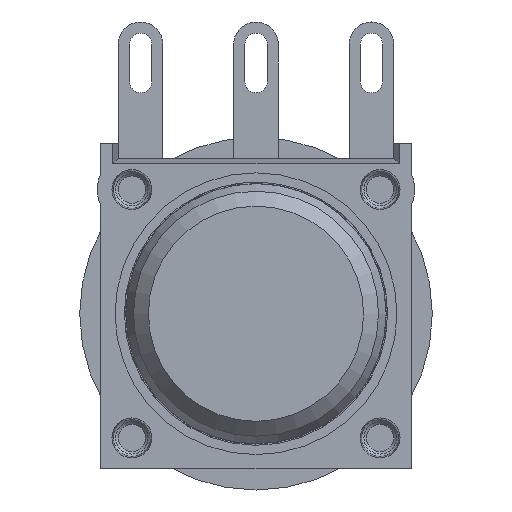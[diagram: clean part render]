
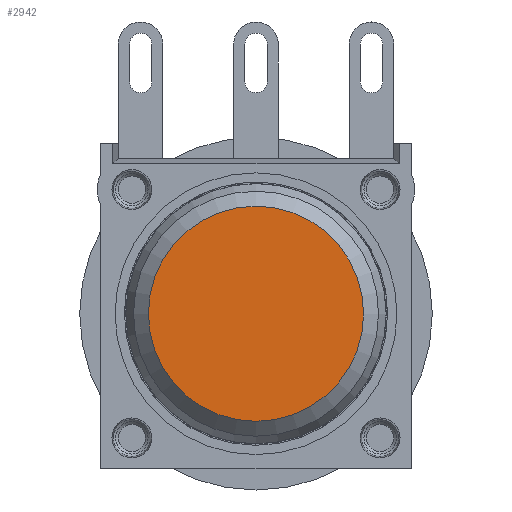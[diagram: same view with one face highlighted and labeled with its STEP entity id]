
A CAD part, left-side view. The second image highlights one B-rep face of the part: STEP entity #2942.
In plain terms, the highlighted planar face has unit normal (-1, 0, 0) as drawn and (0, 0, 1) by its records, which use the part's own axes.
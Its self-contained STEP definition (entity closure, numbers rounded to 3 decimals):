
#2942 = ADVANCED_FACE( '', ( #5911 ), #5912, .T. );
#5911 = FACE_OUTER_BOUND( '', #10654, .T. );
#5912 = PLANE( '', #10655 );
#10654 = EDGE_LOOP( '', ( #18193 ) );
#10655 = AXIS2_PLACEMENT_3D( '', #18194, #18195, #18196 );
#18193 = ORIENTED_EDGE( '', *, *, #19083, .T. );
#18194 = CARTESIAN_POINT( '', ( 0., 0., 1.4 ) );
#18195 = DIRECTION( '', ( 0., 0., 1. ) );
#18196 = DIRECTION( '', ( 1., 0., 0. ) );
#19083 = EDGE_CURVE( '', #22646, #22646, #22647, .T. );
#22646 = VERTEX_POINT( '', #28303 );
#22647 = CIRCLE( '', #28304, 4.334 );
#28303 = CARTESIAN_POINT( '', ( 4.334, 0., 1.4 ) );
#28304 = AXIS2_PLACEMENT_3D( '', #35939, #35940, #35941 );
#35939 = CARTESIAN_POINT( '', ( 0., 0., 1.4 ) );
#35940 = DIRECTION( '', ( 0., 0., 1. ) );
#35941 = DIRECTION( '', ( 1., 0., 0. ) );
